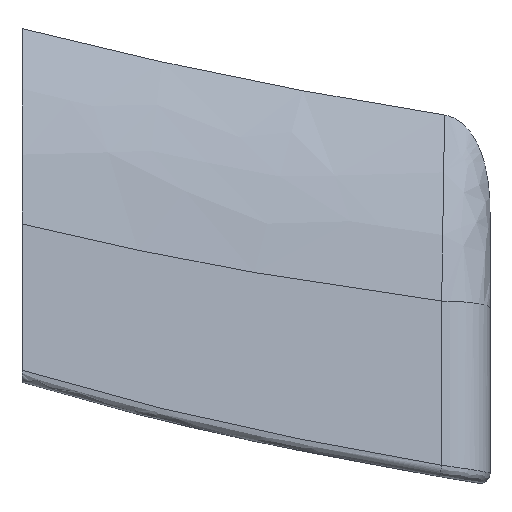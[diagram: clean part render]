
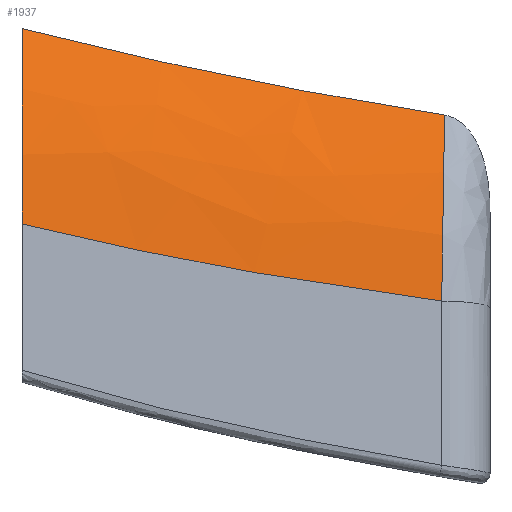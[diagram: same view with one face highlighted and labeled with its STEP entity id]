
A CAD part, top view. The second image highlights one B-rep face of the part: STEP entity #1937.
In plain terms, the highlighted free-form (B-spline) face has degree [3, 3] with [5, 6] control points.
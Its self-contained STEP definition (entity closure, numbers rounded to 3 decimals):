
#64=CIRCLE('',#2101,1367.754);
#131=B_SPLINE_SURFACE_WITH_KNOTS('',3,3,((#3609,#3610,#3611,#3612,#3613,
#3614),(#3615,#3616,#3617,#3618,#3619,#3620),(#3621,#3622,#3623,#3624,#3625,
#3626),(#3627,#3628,#3629,#3630,#3631,#3632),(#3633,#3634,#3635,#3636,#3637,
#3638)),.UNSPECIFIED.,.F.,.F.,.F.,(4,1,4),(4,1,1,4),(0.,0.571,
1.),(-28.819,-22.734,-18.678,-14.622),
 .UNSPECIFIED.);
#204=B_SPLINE_CURVE_WITH_KNOTS('',3,(#2934,#2935,#2936,#2937,#2938,#2939),
 .UNSPECIFIED.,.F.,.F.,(4,2,4),(-6.421,-3.199,0.),
 .UNSPECIFIED.);
#228=B_SPLINE_CURVE_WITH_KNOTS('',3,(#3603,#3604,#3605,#3606,#3607,#3608),
 .UNSPECIFIED.,.F.,.F.,(4,1,1,4),(14.622,18.678,22.734,
27.385),.UNSPECIFIED.);
#229=B_SPLINE_CURVE_WITH_KNOTS('',3,(#3640,#3641,#3642,#3643,#3644),
 .UNSPECIFIED.,.F.,.F.,(4,1,4),(-5.347,-2.291,0.),
 .UNSPECIFIED.);
#289=FACE_OUTER_BOUND('',#411,.T.);
#411=EDGE_LOOP('',(#1472,#1473,#1474,#1475));
#803=VERTEX_POINT('',#2931);
#804=VERTEX_POINT('',#2933);
#885=VERTEX_POINT('',#3601);
#886=VERTEX_POINT('',#3639);
#996=EDGE_CURVE('',#803,#804,#204,.T.);
#1100=EDGE_CURVE('',#885,#803,#228,.T.);
#1101=EDGE_CURVE('',#885,#886,#229,.T.);
#1102=EDGE_CURVE('',#886,#804,#64,.T.);
#1472=ORIENTED_EDGE('',*,*,#996,.F.);
#1473=ORIENTED_EDGE('',*,*,#1100,.F.);
#1474=ORIENTED_EDGE('',*,*,#1101,.T.);
#1475=ORIENTED_EDGE('',*,*,#1102,.T.);
#1937=ADVANCED_FACE('',(#289),#131,.T.);
#2101=AXIS2_PLACEMENT_3D('',#3645,#2451,#2452);
#2451=DIRECTION('center_axis',(0.,0.,-1.));
#2452=DIRECTION('ref_axis',(-0.144,-0.99,0.));
#2931=CARTESIAN_POINT('',(47.045,-36.593,24.486));
#2933=CARTESIAN_POINT('',(47.045,21.943,0.));
#2934=CARTESIAN_POINT('Ctrl Pts',(47.045,-36.593,24.486));
#2935=CARTESIAN_POINT('Ctrl Pts',(47.045,-25.956,22.968));
#2936=CARTESIAN_POINT('Ctrl Pts',(47.045,-15.549,20.101));
#2937=CARTESIAN_POINT('Ctrl Pts',(47.045,4.196,11.832));
#2938=CARTESIAN_POINT('Ctrl Pts',(47.045,13.473,6.476));
#2939=CARTESIAN_POINT('Ctrl Pts',(47.045,21.943,0.));
#3601=CARTESIAN_POINT('',(172.688,-59.633,23.192));
#3603=CARTESIAN_POINT('Ctrl Pts',(172.688,-59.633,23.192));
#3604=CARTESIAN_POINT('Ctrl Pts',(159.25,-57.929,23.439));
#3605=CARTESIAN_POINT('Ctrl Pts',(132.436,-54.043,23.862));
#3606=CARTESIAN_POINT('Ctrl Pts',(90.577,-46.472,24.309));
#3607=CARTESIAN_POINT('Ctrl Pts',(62.162,-40.23,24.454));
#3608=CARTESIAN_POINT('Ctrl Pts',(47.045,-36.593,24.486));
#3609=CARTESIAN_POINT('Ctrl Pts',(47.045,21.943,0.));
#3610=CARTESIAN_POINT('Ctrl Pts',(65.754,17.191,0.));
#3611=CARTESIAN_POINT('Ctrl Pts',(97.077,9.938,0.));
#3612=CARTESIAN_POINT('Ctrl Pts',(141.137,1.356,0.));
#3613=CARTESIAN_POINT('Ctrl Pts',(166.504,-2.848,0.));
#3614=CARTESIAN_POINT('Ctrl Pts',(179.219,-4.771,0.));
#3615=CARTESIAN_POINT('Ctrl Pts',(44.745,12.869,7.384));
#3616=CARTESIAN_POINT('Ctrl Pts',(63.63,8.073,7.382));
#3617=CARTESIAN_POINT('Ctrl Pts',(95.253,0.772,7.339));
#3618=CARTESIAN_POINT('Ctrl Pts',(139.739,-7.817,7.186));
#3619=CARTESIAN_POINT('Ctrl Pts',(165.352,-11.996,7.055));
#3620=CARTESIAN_POINT('Ctrl Pts',(178.19,-13.898,6.978));
#3621=CARTESIAN_POINT('Ctrl Pts',(40.244,-4.889,17.843));
#3622=CARTESIAN_POINT('Ctrl Pts',(59.463,-9.768,17.839));
#3623=CARTESIAN_POINT('Ctrl Pts',(91.658,-17.147,17.735));
#3624=CARTESIAN_POINT('Ctrl Pts',(136.963,-25.699,17.36));
#3625=CARTESIAN_POINT('Ctrl Pts',(163.049,-29.786,17.041));
#3626=CARTESIAN_POINT('Ctrl Pts',(176.123,-31.624,16.855));
#3627=CARTESIAN_POINT('Ctrl Pts',(35.254,-24.567,23.199));
#3628=CARTESIAN_POINT('Ctrl Pts',(54.829,-29.533,23.194));
#3629=CARTESIAN_POINT('Ctrl Pts',(87.635,-36.981,23.061));
#3630=CARTESIAN_POINT('Ctrl Pts',(133.818,-45.444,22.584));
#3631=CARTESIAN_POINT('Ctrl Pts',(160.414,-49.393,22.178));
#3632=CARTESIAN_POINT('Ctrl Pts',(173.743,-51.138,21.941));
#3633=CARTESIAN_POINT('Ctrl Pts',(33.079,-33.141,24.503));
#3634=CARTESIAN_POINT('Ctrl Pts',(52.807,-38.145,24.498));
#3635=CARTESIAN_POINT('Ctrl Pts',(85.875,-45.621,24.359));
#3636=CARTESIAN_POINT('Ctrl Pts',(132.436,-54.043,23.862));
#3637=CARTESIAN_POINT('Ctrl Pts',(159.25,-57.929,23.439));
#3638=CARTESIAN_POINT('Ctrl Pts',(172.688,-59.633,23.192));
#3639=CARTESIAN_POINT('',(173.545,-3.901,0.));
#3640=CARTESIAN_POINT('Ctrl Pts',(172.688,-59.633,23.192));
#3641=CARTESIAN_POINT('Ctrl Pts',(172.864,-48.133,21.544));
#3642=CARTESIAN_POINT('Ctrl Pts',(173.168,-28.424,15.748));
#3643=CARTESIAN_POINT('Ctrl Pts',(173.438,-10.858,5.255));
#3644=CARTESIAN_POINT('Ctrl Pts',(173.545,-3.901,0.));
#3645=CARTESIAN_POINT('Origin',(383.759,1347.602,0.));
